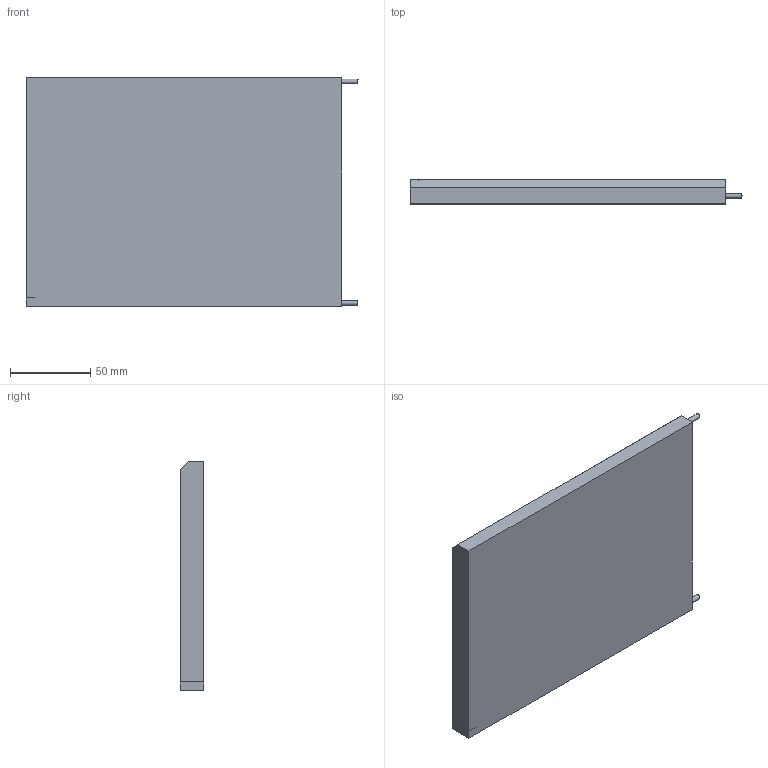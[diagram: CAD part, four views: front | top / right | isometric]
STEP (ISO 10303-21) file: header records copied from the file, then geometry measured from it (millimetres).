
FILE_DESCRIPTION(/* description */ (''),/* implementation_level */ '2;1');
FILE_NAME(/* name */ 'case bottom - LEFT.step',/* time_stamp */ '2026-03-03T07:28:46Z',/* author */ (''),/* organization */ (''),/* preprocessor_version */ 'ST-DEVELOPER v20.1',/* originating_system */ 'Autodesk Translation Framework v14.24.0.0',/* authorisation */ '');
FILE_SCHEMA (('AUTOMOTIVE_DESIGN { 1 0 10303 214 3 1 1 }'));
Length unit declared in the file: millimetre
Products named in the file (1): case bottom
Bounding box: 206.36 x 14.75 x 142.57 mm (x, y, z)
Volume: 87874 mm3; surface area: 71210.3 mm2
Topology: 1 solids, 1 shells, 41 faces, 103 edges, 68 vertices
Faces by surface type: plane 39, cylinder 2
Full cylindrical faces by diameter (mm): 3 x2
Entity records: 1249 total; most frequent: CARTESIAN_POINT 213, ORIENTED_EDGE 206, DIRECTION 191, EDGE_CURVE 103, LINE 99, VECTOR 99, VERTEX_POINT 68, EDGE_LOOP 47
